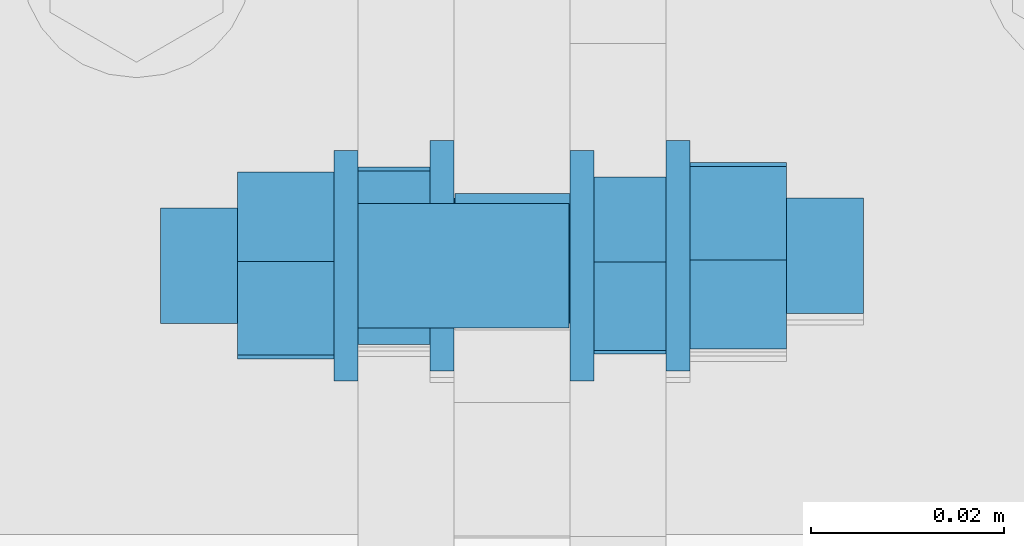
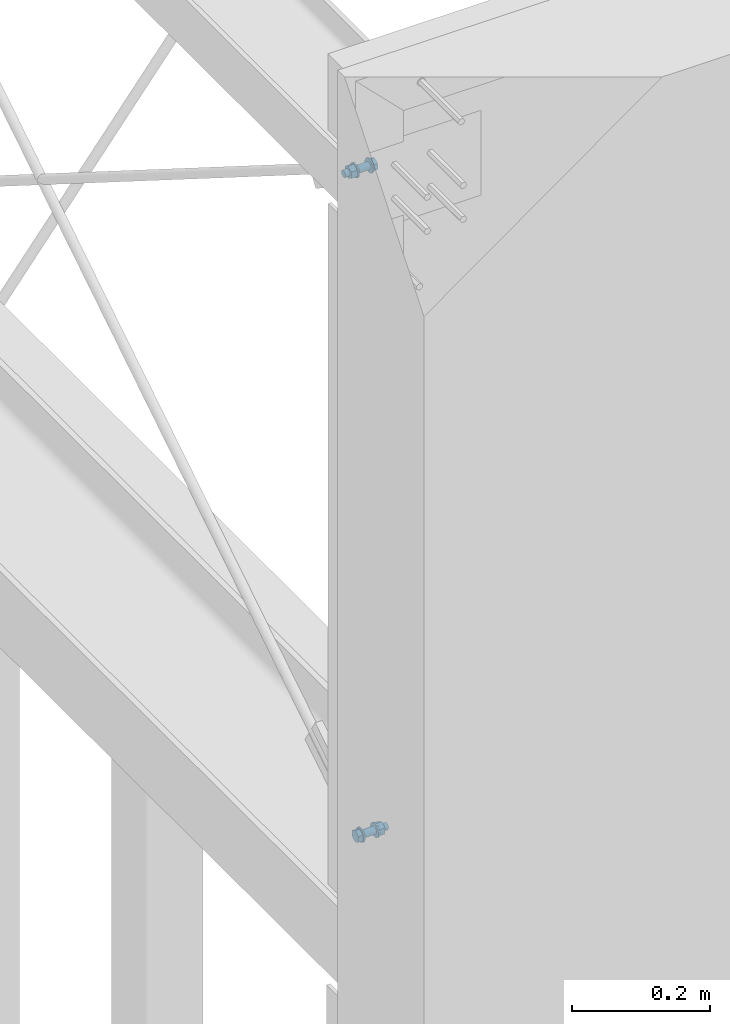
# One storey, part 229 of 271: 2 mechanical fasteners, 2 elements without a shape of their own.
"""IFC2X3 building model written with IfcOpenShell, lengths in millimetres."""

from ifc_helpers import new_model, si_unit, frame, origin_with_axes, origin_2d_with_axis, place, context, subcontext, project, spatial, polyline, circle, outline, extrude, source, transform, mapped, material, type_object, element, aggregate, save


model = new_model("IFC2X3")

# Units and contexts
model_context = context("Model", 3, precision=1e-05, world=origin_with_axes())
body_context = subcontext(model_context, "Body", "Model", "MODEL_VIEW")
ifc_project = project(units=[si_unit("LENGTHUNIT", "METRE", prefix="MILLI"), si_unit("AREAUNIT", "SQUARE_METRE"), si_unit("VOLUMEUNIT", "CUBIC_METRE"), si_unit("MASSUNIT", "GRAM", prefix="KILO"), si_unit("TIMEUNIT", "SECOND"), si_unit("PLANEANGLEUNIT", "RADIAN"), si_unit("SOLIDANGLEUNIT", "STERADIAN"), si_unit("THERMODYNAMICTEMPERATUREUNIT", "DEGREE_CELSIUS"), si_unit("LUMINOUSINTENSITYUNIT", "LUMEN")], contexts=[model_context])

# Site, building, storey
site_placement = place(None, origin_with_axes())
site = spatial("IfcSite", under=ifc_project, at=site_placement, Name="Undefined", CompositionType="ELEMENT")
building_placement = place(site_placement, origin_with_axes())
building = spatial("IfcBuilding", under=site, at=building_placement, Name="Undefined", CompositionType="ELEMENT")
storey_placement = place(building_placement, origin_with_axes())
storey = spatial("IfcBuildingStorey", under=building, at=storey_placement, Name="Undefined", CompositionType="ELEMENT", Elevation=0.0)

# Assembly, mechanical fastener
assembly_1_placement = place(storey_placement, origin_with_axes())
assembly_1 = element("IfcElementAssembly", 1, at=assembly_1_placement, inside=storey, AssemblyPlace="NOTDEFINED", PredefinedType="RIGID_FRAME")
ifc_material = material(Name="Undefined")
mechanical_fastener_type = type_object("IfcMechanicalFastenerType", Name="Bolt assembly")
shared_shape = source(origin_with_axes(), body_context, "Body", "SweptSolid", [
    extrude(circle(Radius=6.5, at=origin_2d_with_axis()), frame((0.0, -5.1, 0.0), z_axis=(0.0, 1.0, 0.0), x_axis=(1.0, 0.0, 0.0)), (0.0, 0.0, 1.0), 10.1),
    extrude(circle(Radius=6.5, at=origin_2d_with_axis()), frame((0.0, -16.9, 0.0), z_axis=(0.0, 1.0, 0.0), x_axis=(1.0, 0.0, 0.0)), (0.0, 0.0, 1.0), 12.0),
    extrude(outline(polyline([(10.39230484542, 0.0), (5.19615242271, 9.00000000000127), (-5.19615242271, 9.00000000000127), (-10.39230484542, 0.0), (-5.19615242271, -9.00000000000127), (5.19615242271, -9.00000000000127), (10.39230484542, 0.0)])), frame((0.0, -27.0, 0.0), z_axis=(0.0, 1.0, 0.0), x_axis=(1.0, 0.0, 0.0)), (0.0, 0.0, 1.0), 7.5),
    extrude(circle(Radius=6.0, at=origin_2d_with_axis()), frame((0.0, -19.5, 0.0), z_axis=(0.0, 1.0, 0.0), x_axis=(1.0, 0.0, 0.0)), (0.0, 0.0, 1.0), 45.0),
    extrude(circle(Radius=12.0, at=origin_2d_with_axis()), frame((0.0, -19.5, 0.0), z_axis=(0.0, 1.0, 0.0), x_axis=(1.0, 0.0, 0.0)), (0.0, 0.0, 1.0), 2.5),
    extrude(circle(Radius=12.0, at=origin_2d_with_axis()), frame((0.0, 5.00000000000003, 0.0), z_axis=(0.0, 1.0, 0.0), x_axis=(1.0, 0.0, 0.0)), (0.0, 0.0, 1.0), 2.5),
    extrude(outline(polyline([(10.96965511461, 0.0), (5.484827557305, 9.50000000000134), (-5.484827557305, 9.50000000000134), (-10.96965511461, 0.0), (-5.484827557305, -9.50000000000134), (5.484827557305, -9.50000000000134), (10.96965511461, 0.0)])), frame((0.0, 7.50000000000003, 0.0), z_axis=(0.0, 1.0, 0.0), x_axis=(1.0, 0.0, 0.0)), (0.0, 0.0, 1.0), 10.0),
])
mechanical_fastener_1_placement = place(assembly_1_placement, frame((109.999999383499, 164.506097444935, 18734.6674529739), z_axis=(0.0, 0.533166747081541, -0.846010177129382), x_axis=(0.0, 0.846010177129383, 0.533166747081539)))
mechanical_fastener_1 = element("IfcMechanicalFastener", 2, at=mechanical_fastener_1_placement, type_object=mechanical_fastener_type, material=ifc_material, Name="Bolt assembly", NominalDiameter=12.0, NominalLength=45.0, context=body_context, shape_type="MappedRepresentation", body=[
    mapped(shared_shape, transform((0.0, 0.0, 0.0))),
])
aggregate(assembly_1, [mechanical_fastener_1])

assembly_2_placement = place(storey_placement, origin_with_axes())
assembly_2 = element("IfcElementAssembly", 3, at=assembly_2_placement, inside=storey, AssemblyPlace="NOTDEFINED", PredefinedType="RIGID_FRAME")
mechanical_fastener_2_placement = place(assembly_2_placement, frame((87.999999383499, 163.474699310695, 19914.6825466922), z_axis=(0.0, 0.533166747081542, 0.846010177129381), x_axis=(0.0, 0.846010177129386, -0.533166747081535)))
mechanical_fastener_2 = element("IfcMechanicalFastener", 4, at=mechanical_fastener_2_placement, type_object=mechanical_fastener_type, material=ifc_material, Name="Bolt assembly", NominalDiameter=12.0, NominalLength=45.0, context=body_context, shape_type="MappedRepresentation", body=[
    mapped(shared_shape, transform((0.0, 0.0, 0.0))),
])
aggregate(assembly_2, [mechanical_fastener_2])

save(model, "model.ifc")
